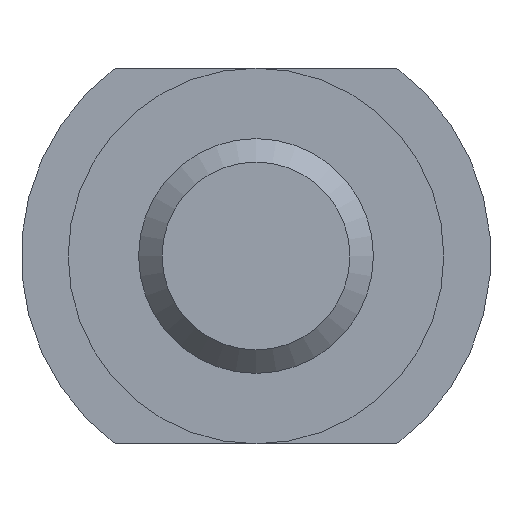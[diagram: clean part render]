
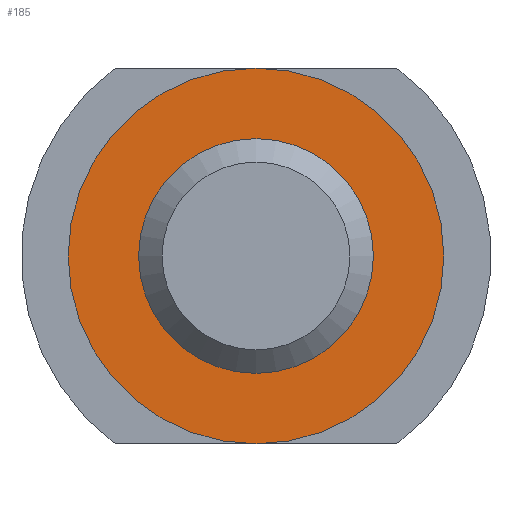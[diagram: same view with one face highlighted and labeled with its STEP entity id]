
A CAD part, left-side view. The second image highlights one B-rep face of the part: STEP entity #185.
In plain terms, the highlighted planar face has unit normal (-1, 0, 0).
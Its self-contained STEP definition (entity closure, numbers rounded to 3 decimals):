
#15=FACE_BOUND('',#53,.T.);
#23=CIRCLE('',#218,4.);
#29=CIRCLE('',#227,2.5);
#40=FACE_OUTER_BOUND('',#52,.T.);
#52=EDGE_LOOP('',(#156));
#53=EDGE_LOOP('',(#157));
#93=VERTEX_POINT('',#323);
#97=VERTEX_POINT('',#338);
#110=EDGE_CURVE('',#93,#93,#23,.T.);
#119=EDGE_CURVE('',#97,#97,#29,.T.);
#156=ORIENTED_EDGE('',*,*,#110,.T.);
#157=ORIENTED_EDGE('',*,*,#119,.T.);
#174=PLANE('',#229);
#185=ADVANCED_FACE('',(#40,#15),#174,.T.);
#218=AXIS2_PLACEMENT_3D('',#324,#259,#260);
#227=AXIS2_PLACEMENT_3D('',#340,#280,#281);
#229=AXIS2_PLACEMENT_3D('',#342,#284,#285);
#259=DIRECTION('center_axis',(-1.,0.,0.));
#260=DIRECTION('ref_axis',(0.,0.,1.));
#280=DIRECTION('center_axis',(1.,0.,0.));
#281=DIRECTION('ref_axis',(0.,0.,1.));
#284=DIRECTION('center_axis',(-1.,0.,0.));
#285=DIRECTION('ref_axis',(0.,0.,1.));
#323=CARTESIAN_POINT('',(-33.,0.,-4.));
#324=CARTESIAN_POINT('Origin',(-33.,0.,0.));
#338=CARTESIAN_POINT('',(-33.,0.,-2.5));
#340=CARTESIAN_POINT('Origin',(-33.,0.,0.));
#342=CARTESIAN_POINT('Origin',(-33.,0.,0.));
